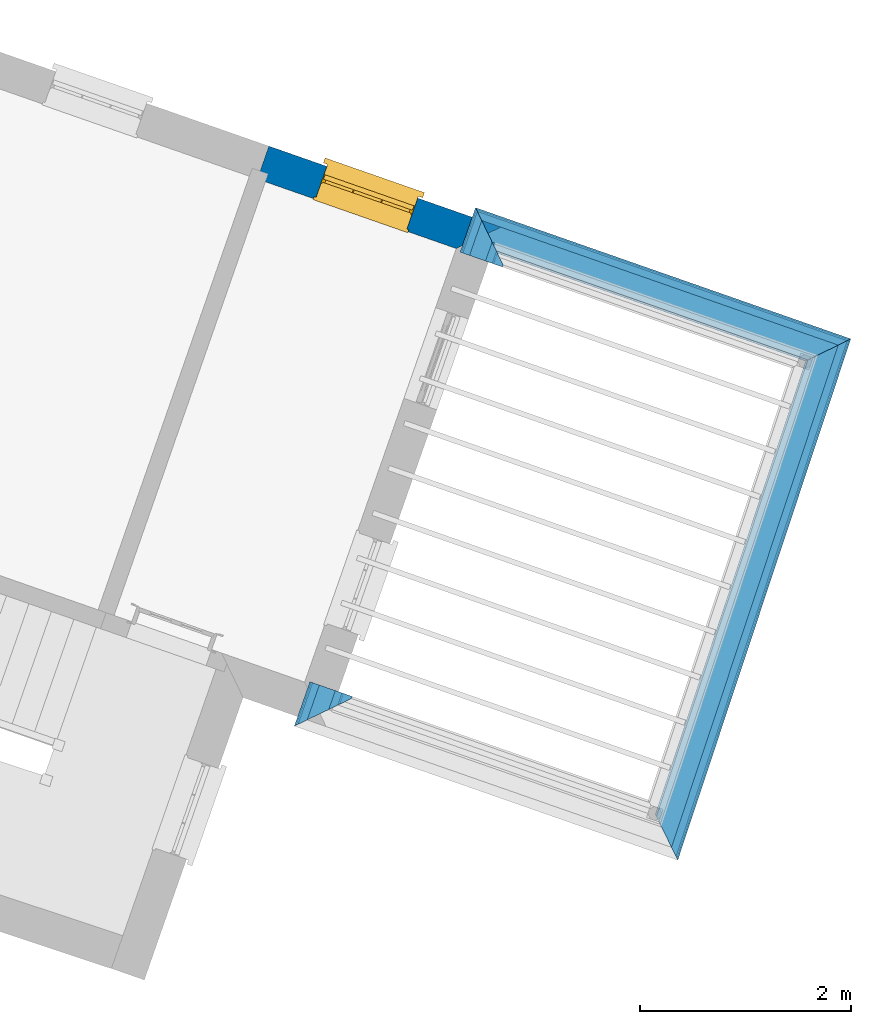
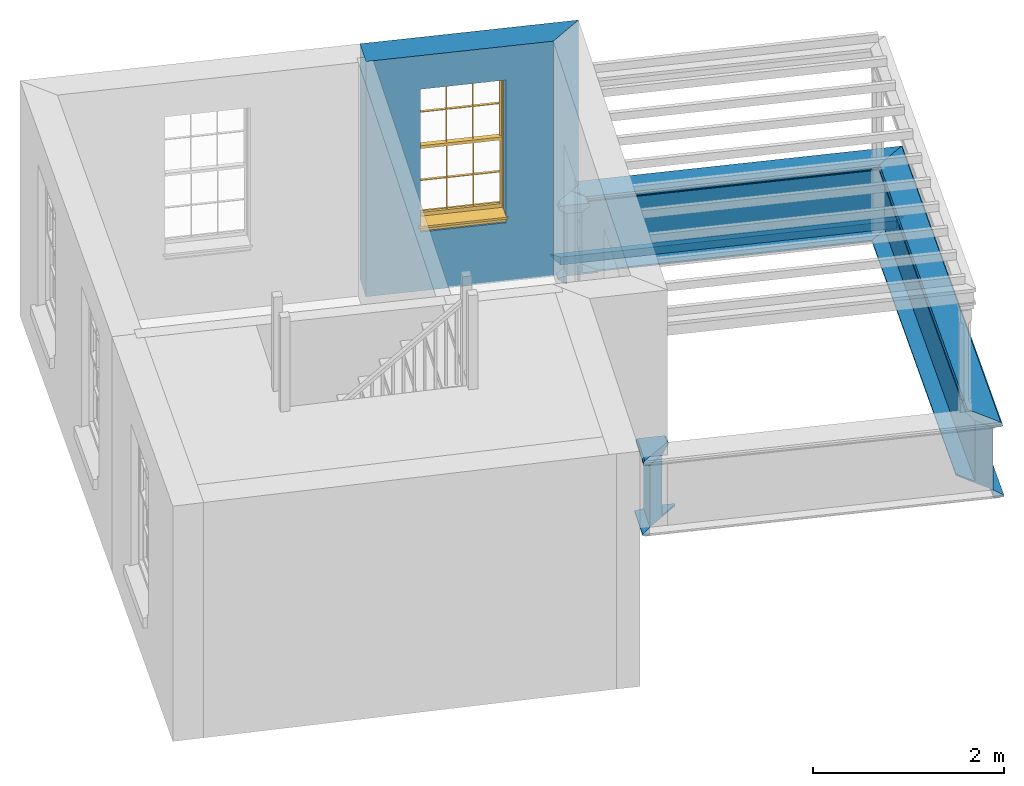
# One storey, part 5 of 6: 13 walls, 1 window, 1 opening.
"""IFC4 building model written with IfcOpenShell, lengths in metres."""

from ifc_helpers import new_model, si_unit, frame, origin, origin_with_axes, place, context, subcontext, project, spatial, polyline, outline, extrude, clip, halfspace, faceted_brep, source, transform, mapped, material, layer, layer_set, layer_usage, material_profile, profile_set, profile_usage, type_object, type_shapes, element, fill, save


model = new_model("IFC4")

# Units and contexts
model_context = context("Model", 3, world=origin_with_axes())
body_context = subcontext(model_context, "Body", "Model", "MODEL_VIEW")
ifc_project = project(units=[si_unit("PLANEANGLEUNIT", "RADIAN"), si_unit("MASSUNIT", "GRAM", prefix="KILO"), si_unit("FORCEUNIT", "NEWTON", prefix="KILO"), si_unit("LENGTHUNIT", "METRE"), si_unit("AREAUNIT", "SQUARE_METRE"), si_unit("VOLUMEUNIT", "CUBIC_METRE")], contexts=[model_context, model_context])

# Sites, building, storey
site_1_placement = place(None, origin_with_axes())
site_1 = spatial("IfcSite", under=ifc_project, at=site_1_placement, Name="Tamar")
site_2_placement = place(site_1_placement, origin_with_axes())
site_2 = spatial("IfcSite", under=site_1, at=site_2_placement, Name="Site plot-15", CompositionType="ELEMENT")
building_placement = place(None, origin_with_axes())
building = spatial("IfcBuilding", under=site_2, at=building_placement, Name="Building plot-15", CompositionType="ELEMENT")
storey_placement = place(None, frame((0.0, 0.0, 29.95), z_axis=(0.0, 0.0, 1.0), x_axis=(1.0, 0.0, 0.0)))
storey = spatial("IfcBuildingStorey", under=building, at=storey_placement, Name="plot-15 1", CompositionType="ELEMENT", Elevation=29.95)

# Wall, opening, window
ifc_material = material(Name="Masonry")
ifc_layer = layer(ifc_material, 0.33, ventilated=False)
ifc_layer_set = layer_set([ifc_layer], Name="exterior_0.08_0.25")
ifc_layer_usage = layer_usage(ifc_layer_set, "AXIS2", "POSITIVE", -0.25)
wall_type_1 = type_object("IfcWallType", Name="exterior_0.08_0.25", PredefinedType="SOLIDWALL", material=ifc_layer_set)
wall_1_placement = place(storey_placement, frame((263.78081158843, 309.226685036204, 0.0), z_axis=(0.0, 0.0, 1.0), x_axis=(-0.943980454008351, 0.330001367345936, 0.0)))
wall_1 = element("IfcWall", 1, at=wall_1_placement, inside=storey, type_object=wall_type_1, material=ifc_layer_usage, Name="exterior", context=body_context, shape_type="SweptSolid", body=[
    extrude(outline(polyline([(0.0799999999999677, 0.0800000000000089), (-0.250000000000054, -0.249999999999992), (2.07269521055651, -0.250000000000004), (2.07269521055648, 0.080000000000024), (0.0799999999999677, 0.0800000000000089)])), origin_with_axes(), (0.0, 0.0, 1.0), 3.0),
])
opening_placement = place(wall_1_placement, frame((0.581347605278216, 0.0, 0.75)))
opening = element("IfcOpeningElement", 2, at=opening_placement, cuts=wall_1, Name="My Opening", ObjectType="Opening", context=body_context, shape_type="SweptSolid", body=[
    extrude(outline(polyline([(0.0, -0.270000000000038), (0.910000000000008, -0.269999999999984), (0.910000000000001, 1.10000000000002), (-7.66053886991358e-15, 1.09999999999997), (0.0, -0.270000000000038)])), origin_with_axes(), (0.0, 0.0, 1.0), 1.82),
])
window_type = type_object("IfcWindowType", Name="sash_big", PartitioningType="DOUBLE_PANEL_HORIZONTAL", PredefinedType="NOTDEFINED")
shared_shape = source(origin(), body_context, "Body", "Brep", [
    faceted_brep([(0.033125, 0.145, 0.975209), (0.01, 0.145, 0.975209), (0.033125, 0.145, 1.376042), (0.876875, 0.145, 0.975209), (0.876875, 0.145, 1.376042), (0.9, 0.145, 0.975209), (0.876875, 0.145, 1.386042), (0.876875, 0.145, 1.786875), (0.9, 0.145, 1.81), (0.033125, 0.145, 1.786875), (0.033125, 0.145, 1.386042), (0.01, 0.145, 1.81), (0.876875, 0.115, 1.376042), (0.876875, 0.115, 0.975209), (0.9, 0.115, 0.937083), (0.033125, 0.115, 1.786875), (0.01, 0.115, 1.81), (0.033125, 0.115, 1.386042), (0.01, 0.115, 0.937083), (0.033125, 0.115, 0.975209), (0.033125, 0.115, 1.376042), (0.876875, 0.115, 1.786875), (0.876875, 0.115, 1.386042), (0.9, 0.115, 1.81), (0.033125, 0.145, 0.937083), (0.01, 0.145, 0.937083), (0.033125, 0.145, 0.53625), (0.876875, 0.145, 0.937083), (0.876875, 0.145, 0.53625), (0.9, 0.145, 0.937083), (0.876875, 0.145, 0.52625), (0.876875, 0.145, 0.125417), (0.9, 0.145, 0.077167), (0.033125, 0.145, 0.125417), (0.033125, 0.145, 0.52625), (0.01, 0.145, 0.077167), (-0.0425, 0.0, 0.01), (-0.0425, -0.05, 0.001667), (0.0, 0.0, 0.01), (0.9525, 0.0, 0.01), (0.91, 0.0, 0.01), (0.9525, -0.05, 0.001667), (-0.02, 0.33, 0.077167), (0.0, 0.33, 0.077167), (-0.02, 0.36, 0.077167), (0.0, 0.19, 0.077167), (0.01, 0.19, 0.077167), (0.91, 0.19, 0.077167), (0.91, 0.33, 0.077167), (0.9, 0.19, 0.077167), (0.93, 0.33, 0.077167), (0.93, 0.36, 0.077167), (0.01, 0.175, 0.975209), (0.9, 0.175, 0.975209), (0.876875, 0.175, 0.125417), (0.876875, 0.175, 0.52625), (0.9, 0.175, 0.077167), (0.876875, 0.175, 0.53625), (0.876875, 0.175, 0.937083), (0.033125, 0.175, 0.125417), (0.01, 0.175, 0.077167), (0.033125, 0.175, 0.52625), (0.033125, 0.175, 0.937083), (0.033125, 0.175, 0.53625), (-0.02, 0.33, 0.052167), (-0.02, 0.36, 0.052167), (0.93, 0.36, 0.052167), (0.93, 0.33, 0.052167), (0.91, 0.33, 0.052167), (0.0, 0.33, 0.052167), (0.91, 0.1, 0.026667), (0.0, 0.1, 0.026667), (-0.0425, -0.05, -0.123333), (0.9525, -0.05, -0.123333), (-0.0425, 0.0, -0.123333), (0.9525, 0.0, -0.123333), (0.01, 0.19, 1.81), (0.9, 0.19, 1.81), (0.0, 0.19, 1.82), (0.91, 0.19, 1.82), (0.01, 0.1, 0.077167), (0.9, 0.1, 0.077167), (0.592292, 0.145, 0.125417), (0.592292, 0.175, 0.125417), (0.317708, 0.175, 0.125417), (0.317708, 0.145, 0.125417), (0.592292, 0.145, 0.53625), (0.317708, 0.145, 0.53625), (0.317708, 0.145, 0.52625), (0.592292, 0.145, 0.52625), (0.592292, 0.175, 0.53625), (0.317708, 0.175, 0.53625), (0.592292, 0.115, 1.386042), (0.592292, 0.145, 1.386042), (0.317708, 0.145, 1.386042), (0.317708, 0.115, 1.386042), (0.317708, 0.115, 1.376042), (0.592292, 0.115, 1.376042), (0.317708, 0.145, 1.376042), (0.592292, 0.145, 1.376042), (0.602292, 0.115, 1.376042), (0.592292, 0.115, 0.975209), (0.602292, 0.115, 0.975209), (0.602292, 0.145, 0.975209), (0.592292, 0.145, 0.975209), (0.602292, 0.145, 1.376042), (0.602292, 0.175, 0.53625), (0.602292, 0.145, 0.53625), (0.317708, 0.175, 0.52625), (0.307708, 0.175, 0.125417), (0.307708, 0.175, 0.52625), (0.602292, 0.175, 0.52625), (0.602292, 0.175, 0.125417), (0.592292, 0.175, 0.52625), (0.307708, 0.175, 0.53625), (0.317708, 0.175, 0.937083), (0.307708, 0.175, 0.937083), (0.602292, 0.175, 0.937083), (0.592292, 0.175, 0.937083), (0.307708, 0.145, 0.52625), (0.307708, 0.145, 0.125417), (0.307708, 0.145, 0.53625), (0.307708, 0.145, 0.937083), (0.592292, 0.145, 0.937083), (0.317708, 0.145, 0.937083), (0.602292, 0.145, 0.937083), (0.602292, 0.145, 0.52625), (0.602292, 0.145, 0.125417), (0.307708, 0.115, 1.386042), (0.307708, 0.115, 1.376042), (0.307708, 0.115, 0.975209), (0.317708, 0.115, 0.975209), (0.317708, 0.115, 1.786875), (0.307708, 0.115, 1.786875), (0.602292, 0.115, 1.786875), (0.592292, 0.115, 1.786875), (0.602292, 0.115, 1.386042), (0.602292, 0.145, 1.386042), (0.307708, 0.145, 1.386042), (0.307708, 0.145, 1.786875), (0.317708, 0.145, 1.786875), (0.592292, 0.145, 1.786875), (0.602292, 0.145, 1.786875), (0.307708, 0.145, 1.376042), (0.317708, 0.145, 0.975209), (0.307708, 0.145, 0.975209), (0.91, 0.1, 1.82), (0.9, 0.1, 1.81), (0.01, 0.1, 1.81), (0.0, 0.1, 1.82), (0.91, 0.0, 0.0), (0.0, 0.0, 0.0), (0.91, 0.33, 0.0), (0.0, 0.33, 0.0)], [[[0, 1, 2]], [[3, 4, 5]], [[6, 7, 8]], [[9, 10, 11]], [[12, 13, 14]], [[15, 16, 17]], [[18, 19, 20]], [[21, 22, 23]], [[24, 25, 26]], [[27, 28, 29]], [[30, 31, 32]], [[33, 34, 35]], [[14, 27, 29]], [[25, 24, 18]], [[36, 37, 38]], [[39, 40, 41]], [[42, 43, 44]], [[45, 46, 43]], [[47, 48, 49]], [[50, 51, 48]], [[1, 0, 52]], [[5, 53, 3]], [[54, 55, 56]], [[57, 58, 53]], [[59, 60, 61]], [[62, 63, 52]], [[48, 43, 46, 49]], [[51, 44, 43, 48]], [[64, 42, 44, 65]], [[65, 44, 51, 66]], [[66, 51, 50, 67]], [[65, 66, 68, 69]], [[60, 56, 49, 46]], [[70, 71, 38, 40]], [[37, 41, 40, 38]], [[37, 72, 73, 41]], [[74, 75, 73, 72]], [[8, 11, 76, 77]], [[76, 78, 79, 77]], [[32, 35, 80, 81]], [[81, 80, 71, 70]], [[82, 83, 84, 85]], [[86, 87, 88, 89]], [[86, 90, 91, 87]], [[92, 93, 94, 95]], [[92, 95, 96, 97]], [[96, 98, 99, 97]], [[100, 97, 101, 102]], [[103, 104, 99, 105]], [[97, 99, 104, 101]], [[102, 103, 105, 100]], [[28, 57, 106, 107]], [[108, 84, 109, 110]], [[111, 112, 83, 113]], [[114, 110, 61, 63]], [[90, 113, 108, 91]], [[115, 91, 114, 116]], [[117, 106, 90, 118]], [[111, 106, 57, 55]], [[119, 110, 109, 120]], [[34, 61, 110, 119]], [[89, 113, 83, 82]], [[88, 108, 113, 89]], [[85, 84, 108, 88]], [[121, 114, 63, 26]], [[122, 116, 114, 121]], [[123, 118, 90, 86]], [[87, 91, 115, 124]], [[107, 106, 117, 125]], [[126, 111, 55, 30]], [[127, 112, 111, 126]], [[126, 30, 28, 107]], [[88, 119, 120, 85]], [[126, 89, 82, 127]], [[125, 123, 86, 107]], [[121, 26, 34, 119]], [[124, 122, 121, 87]], [[128, 17, 20, 129]], [[96, 129, 130, 131]], [[132, 133, 128, 95]], [[134, 135, 92, 136]], [[100, 12, 22, 136]], [[137, 6, 4, 105]], [[94, 138, 139, 140]], [[137, 93, 141, 142]], [[99, 98, 94, 93]], [[143, 2, 10, 138]], [[144, 145, 143, 98]], [[129, 143, 145, 130]], [[20, 2, 143, 129]], [[131, 144, 98, 96]], [[128, 138, 10, 17]], [[133, 139, 138, 128]], [[135, 141, 93, 92]], [[95, 94, 140, 132]], [[22, 6, 137, 136]], [[136, 137, 142, 134]], [[100, 105, 4, 12]], [[107, 86, 89, 126]], [[106, 111, 113, 90]], [[91, 108, 110, 114]], [[87, 121, 119, 88]], [[97, 100, 136, 92]], [[129, 96, 95, 128]], [[98, 143, 138, 94]], [[105, 99, 93, 137]], [[131, 101, 104, 144]], [[124, 115, 118, 123]], [[132, 140, 141, 135]], [[120, 109, 59, 33]], [[15, 9, 139, 133]], [[134, 142, 7, 21]], [[31, 54, 112, 127]], [[36, 74, 72, 37]], [[39, 41, 73, 75]], [[18, 14, 101, 131]], [[23, 16, 132, 135]], [[83, 56, 60, 84]], [[52, 53, 118, 115]], [[53, 52, 144, 104]], [[11, 8, 141, 140]], [[14, 18, 124, 123]], [[2, 1, 11, 10]], [[8, 5, 4, 6]], [[57, 53, 56, 55]], [[60, 52, 63, 61]], [[26, 25, 35, 34]], [[32, 29, 28, 30]], [[14, 23, 22, 12]], [[18, 20, 17, 16]], [[19, 0, 2, 20]], [[17, 10, 9, 15]], [[12, 4, 3, 13]], [[21, 7, 6, 22]], [[27, 58, 57, 28]], [[30, 55, 54, 31]], [[33, 59, 61, 34]], [[26, 63, 62, 24]], [[5, 8, 77, 53]], [[76, 11, 1, 52]], [[46, 45, 78, 76]], [[49, 77, 79, 47]], [[70, 146, 147, 81]], [[71, 80, 148, 149]], [[19, 130, 145, 0]], [[102, 13, 3, 103]], [[116, 122, 24, 62]], [[29, 32, 81, 14]], [[80, 35, 25, 18]], [[60, 46, 76, 52]], [[77, 49, 56, 53]], [[23, 14, 81, 147]], [[16, 148, 80, 18]], [[35, 85, 120]], [[120, 33, 35]], [[127, 82, 32]], [[32, 31, 127]], [[32, 82, 85, 35]], [[102, 101, 14]], [[14, 13, 102]], [[18, 131, 130]], [[130, 19, 18]], [[134, 21, 23]], [[23, 135, 134]], [[16, 15, 133]], [[133, 132, 16]], [[11, 140, 139]], [[139, 9, 11]], [[142, 141, 8]], [[8, 7, 142]], [[23, 147, 148, 16]], [[146, 149, 148, 147]], [[52, 115, 116]], [[116, 62, 52]], [[118, 53, 117]], [[58, 117, 53]], [[27, 125, 117, 58]], [[56, 83, 112]], [[112, 54, 56]], [[109, 84, 60]], [[60, 59, 109]], [[125, 27, 14]], [[14, 123, 125]], [[122, 124, 18]], [[18, 24, 122]], [[145, 144, 52]], [[52, 0, 145]], [[103, 3, 53]], [[53, 104, 103]], [[79, 78, 149, 146]], [[78, 45, 71, 149]], [[146, 70, 47, 79]], [[150, 75, 74, 151]], [[68, 66, 67]], [[48, 68, 67, 50]], [[69, 64, 65]], [[42, 64, 69, 43]], [[69, 68, 152, 153]], [[70, 68, 48, 47]], [[150, 152, 68, 70]], [[43, 69, 71, 45]], [[69, 153, 151, 71]], [[152, 150, 151, 153]], [[38, 151, 74, 36]], [[71, 151, 38]], [[39, 75, 150, 40]], [[40, 150, 70]]]),
])
type_shapes(window_type, [shared_shape])
window_placement = place(storey_placement, frame((263.321131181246, 309.673405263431, 0.75), z_axis=(0.0, 0.0, 1.0), x_axis=(-0.859022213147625, 0.300301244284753, 0.0)))
window = element("IfcWindow", 3, at=window_placement, inside=storey, type_object=window_type, Name="bedroom sahn window", OverallHeight=1.82, OverallWidth=0.91, context=body_context, shape_type="MappedRepresentation", body=[
    mapped(shared_shape, transform((0.0, 0.0, 0.0), scale=1.0)),
])
fill(opening, window)

# Walls
ifc_material_profile_1 = material_profile(None, outline(polyline([(0.25, 0.0), (0.25, 0.795), (0.09, 0.795), (0.09, 0.02), (-0.08, 0.02), (-0.08, 0.0), (0.25, 0.0)])))
ifc_profile_set_1 = profile_set([ifc_material_profile_1])
ifc_profile_usage_1 = profile_usage(ifc_profile_set_1)
wall_type_2 = type_object("IfcWallType", Name="parapet_0", PredefinedType="PARAPET", material=ifc_profile_set_1)
wall_2_placement = place(storey_placement, frame((262.25707292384, 303.928587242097, 0.0), z_axis=(0.330001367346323, 0.943980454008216, 0.0), x_axis=(-0.943980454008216, 0.330001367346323, 0.0)))
element("IfcWall", 4, at=wall_2_placement, inside=storey, type_object=wall_type_2, material=ifc_profile_usage_1, Name="parapet_0", context=body_context, shape_type="Clipping", body=[
    clip(clip(extrude(outline(polyline([(0.25, 0.0), (0.25, 0.795), (0.09, 0.795), (0.09, 0.02), (-0.08, 0.02), (-0.08, 0.0), (0.25, 0.0)])), origin_with_axes(), (0.0, 0.0, 1.0), 2.10000000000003), halfspace(frame((0.0, 0.0, 1.10000000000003), z_axis=(-1.33839086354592e-14, 0.0, -1.0), x_axis=(0.0, 1.0, 0.0)), True)), halfspace(frame((0.0, 0.0, 1.0), z_axis=(-0.707106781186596, 0.0, -0.707106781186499), x_axis=(0.0, 1.0, 0.0)), False)),
])
ifc_profile_usage_2 = profile_usage(ifc_profile_set_1)
wall_3_placement = place(storey_placement, frame((267.291390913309, 309.058650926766, 0.0), z_axis=(-0.315038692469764, -0.949078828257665, 0.0), x_axis=(0.949078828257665, -0.315038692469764, 0.0)))
element("IfcWall", 5, at=wall_3_placement, inside=storey, type_object=wall_type_2, material=ifc_profile_usage_2, Name="parapet_0", context=body_context, shape_type="Clipping", body=[
    clip(clip(extrude(outline(polyline([(0.25, 0.0), (0.25, 0.795), (0.09, 0.795), (0.09, 0.02), (-0.08, 0.02), (-0.08, 0.0), (0.25, 0.0)])), origin_with_axes(), (0.0, 0.0, 1.0), 6.50469940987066), halfspace(frame((0.0, 0.0, 5.50469940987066), z_axis=(0.712673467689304, 0.0, -0.70149592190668), x_axis=(0.0, 1.0, 0.0)), True)), halfspace(frame((0.0, 0.0, 1.0), z_axis=(-0.701495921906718, 0.0, -0.712673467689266), x_axis=(0.0, 1.0, 0.0)), False)),
])
ifc_profile_usage_3 = profile_usage(ifc_profile_set_1)
wall_4_placement = place(storey_placement, frame((263.129465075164, 309.454385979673, 0.0), z_axis=(0.943980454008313, -0.330001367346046, 0.0), x_axis=(0.330001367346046, 0.943980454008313, 0.0)))
element("IfcWall", 6, at=wall_4_placement, inside=storey, type_object=wall_type_2, material=ifc_profile_usage_3, Name="parapet_0", context=body_context, shape_type="Clipping", body=[
    clip(clip(extrude(outline(polyline([(0.25, 0.0), (0.25, 0.795), (0.09, 0.795), (0.09, 0.02), (-0.08, 0.02), (-0.08, 0.0), (0.25, 0.0)])), origin_with_axes(), (0.0, 0.0, 1.0), 5.07517669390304), halfspace(frame((0.0, 0.0, 4.07517669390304), z_axis=(0.701495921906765, 0.0, -0.71267346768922), x_axis=(0.0, 1.0, 0.0)), True)), halfspace(frame((0.0, 0.0, 1.0), z_axis=(-0.70710678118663, 0.0, -0.707106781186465), x_axis=(0.0, 1.0, 0.0)), False)),
])
ifc_profile_usage_4 = profile_usage(ifc_profile_set_1)
wall_5_placement = place(storey_placement, frame((263.710444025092, 308.086006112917, 0.0), z_axis=(0.330001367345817, 0.943980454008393, 0.0), x_axis=(-0.943980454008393, 0.330001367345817, 0.0)))
element("IfcWall", 7, at=wall_5_placement, inside=storey, type_object=wall_type_2, material=ifc_profile_usage_4, Name="parapet_0", context=body_context, shape_type="Clipping", body=[
    clip(clip(extrude(outline(polyline([(0.25, 0.0), (0.25, 0.795), (0.09, 0.795), (0.09, 0.02), (-0.08, 0.02), (-0.08, 0.0), (0.25, 0.0)])), origin_with_axes(), (0.0, 0.0, 1.0), 2.10000000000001), halfspace(frame((0.0, 0.0, 1.10000000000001), z_axis=(0.707106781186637, 0.0, -0.707106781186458), x_axis=(0.0, 1.0, 0.0)), True)), halfspace(frame((0.0, 0.0, 1.0), z_axis=(-1.60484438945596e-14, 0.0, -1.0), x_axis=(0.0, 1.0, 0.0)), False)),
])
ifc_material_profile_2 = material_profile(None, outline(polyline([(0.265, 0.795), (0.268, 0.807), (0.274, 0.816), (0.283, 0.822), (0.295, 0.825), (0.295, 0.84), (0.305, 0.84), (0.317, 0.842), (0.326, 0.849), (0.333, 0.858), (0.335, 0.87), (0.333, 0.882), (0.326, 0.891), (0.317, 0.898), (0.305, 0.9), (0.035, 0.9), (0.023, 0.898), (0.014, 0.891), (0.007, 0.882), (0.005, 0.87), (0.007, 0.858), (0.014, 0.849), (0.023, 0.842), (0.035, 0.84), (0.045, 0.84), (0.045, 0.825), (0.057, 0.822), (0.066, 0.816), (0.072, 0.807), (0.075, 0.795), (0.265, 0.795)])))
ifc_profile_set_2 = profile_set([ifc_material_profile_2])
ifc_profile_usage_5 = profile_usage(ifc_profile_set_2)
wall_type_3 = type_object("IfcWallType", Name="parapet_1", PredefinedType="PARAPET", material=ifc_profile_set_2)
wall_6_placement = place(storey_placement, frame((262.25707292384, 303.928587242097, 0.0), z_axis=(0.330001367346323, 0.943980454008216, 0.0), x_axis=(-0.943980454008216, 0.330001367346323, 0.0)))
element("IfcWall", 8, at=wall_6_placement, inside=storey, type_object=wall_type_3, material=ifc_profile_usage_5, Name="parapet_1", context=body_context, shape_type="Clipping", body=[
    clip(clip(extrude(outline(polyline([(0.265, 0.795), (0.268, 0.807), (0.274, 0.816), (0.283, 0.822), (0.295, 0.825), (0.295, 0.84), (0.305, 0.84), (0.317, 0.842), (0.326, 0.849), (0.333, 0.858), (0.335, 0.87), (0.333, 0.882), (0.326, 0.891), (0.317, 0.898), (0.305, 0.9), (0.035, 0.9), (0.023, 0.898), (0.014, 0.891), (0.007, 0.882), (0.005, 0.87), (0.007, 0.858), (0.014, 0.849), (0.023, 0.842), (0.035, 0.84), (0.045, 0.84), (0.045, 0.825), (0.057, 0.822), (0.066, 0.816), (0.072, 0.807), (0.075, 0.795), (0.265, 0.795)])), origin_with_axes(), (0.0, 0.0, 1.0), 2.10000000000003), halfspace(frame((0.0, 0.0, 1.10000000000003), z_axis=(-1.33839086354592e-14, 0.0, -1.0), x_axis=(0.0, 1.0, 0.0)), True)), halfspace(frame((0.0, 0.0, 1.0), z_axis=(-0.707106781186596, 0.0, -0.707106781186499), x_axis=(0.0, 1.0, 0.0)), False)),
])
ifc_profile_usage_6 = profile_usage(ifc_profile_set_2)
wall_7_placement = place(storey_placement, frame((267.291390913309, 309.058650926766, 0.0), z_axis=(-0.315038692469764, -0.949078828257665, 0.0), x_axis=(0.949078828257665, -0.315038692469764, 0.0)))
element("IfcWall", 9, at=wall_7_placement, inside=storey, type_object=wall_type_3, material=ifc_profile_usage_6, Name="parapet_1", context=body_context, shape_type="Clipping", body=[
    clip(clip(extrude(outline(polyline([(0.265, 0.795), (0.268, 0.807), (0.274, 0.816), (0.283, 0.822), (0.295, 0.825), (0.295, 0.84), (0.305, 0.84), (0.317, 0.842), (0.326, 0.849), (0.333, 0.858), (0.335, 0.87), (0.333, 0.882), (0.326, 0.891), (0.317, 0.898), (0.305, 0.9), (0.035, 0.9), (0.023, 0.898), (0.014, 0.891), (0.007, 0.882), (0.005, 0.87), (0.007, 0.858), (0.014, 0.849), (0.023, 0.842), (0.035, 0.84), (0.045, 0.84), (0.045, 0.825), (0.057, 0.822), (0.066, 0.816), (0.072, 0.807), (0.075, 0.795), (0.265, 0.795)])), origin_with_axes(), (0.0, 0.0, 1.0), 6.50469940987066), halfspace(frame((0.0, 0.0, 5.50469940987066), z_axis=(0.712673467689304, 0.0, -0.70149592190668), x_axis=(0.0, 1.0, 0.0)), True)), halfspace(frame((0.0, 0.0, 1.0), z_axis=(-0.701495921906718, 0.0, -0.712673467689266), x_axis=(0.0, 1.0, 0.0)), False)),
])
ifc_profile_usage_7 = profile_usage(ifc_profile_set_2)
wall_8_placement = place(storey_placement, frame((263.129465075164, 309.454385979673, 0.0), z_axis=(0.943980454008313, -0.330001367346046, 0.0), x_axis=(0.330001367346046, 0.943980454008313, 0.0)))
element("IfcWall", 10, at=wall_8_placement, inside=storey, type_object=wall_type_3, material=ifc_profile_usage_7, Name="parapet_1", context=body_context, shape_type="Clipping", body=[
    clip(clip(extrude(outline(polyline([(0.265, 0.795), (0.268, 0.807), (0.274, 0.816), (0.283, 0.822), (0.295, 0.825), (0.295, 0.84), (0.305, 0.84), (0.317, 0.842), (0.326, 0.849), (0.333, 0.858), (0.335, 0.87), (0.333, 0.882), (0.326, 0.891), (0.317, 0.898), (0.305, 0.9), (0.035, 0.9), (0.023, 0.898), (0.014, 0.891), (0.007, 0.882), (0.005, 0.87), (0.007, 0.858), (0.014, 0.849), (0.023, 0.842), (0.035, 0.84), (0.045, 0.84), (0.045, 0.825), (0.057, 0.822), (0.066, 0.816), (0.072, 0.807), (0.075, 0.795), (0.265, 0.795)])), origin_with_axes(), (0.0, 0.0, 1.0), 5.07517669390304), halfspace(frame((0.0, 0.0, 4.07517669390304), z_axis=(0.701495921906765, 0.0, -0.71267346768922), x_axis=(0.0, 1.0, 0.0)), True)), halfspace(frame((0.0, 0.0, 1.0), z_axis=(-0.70710678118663, 0.0, -0.707106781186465), x_axis=(0.0, 1.0, 0.0)), False)),
])
ifc_profile_usage_8 = profile_usage(ifc_profile_set_2)
wall_9_placement = place(storey_placement, frame((263.710444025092, 308.086006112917, 0.0), z_axis=(0.330001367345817, 0.943980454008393, 0.0), x_axis=(-0.943980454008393, 0.330001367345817, 0.0)))
element("IfcWall", 11, at=wall_9_placement, inside=storey, type_object=wall_type_3, material=ifc_profile_usage_8, Name="parapet_1", context=body_context, shape_type="Clipping", body=[
    clip(clip(extrude(outline(polyline([(0.265, 0.795), (0.268, 0.807), (0.274, 0.816), (0.283, 0.822), (0.295, 0.825), (0.295, 0.84), (0.305, 0.84), (0.317, 0.842), (0.326, 0.849), (0.333, 0.858), (0.335, 0.87), (0.333, 0.882), (0.326, 0.891), (0.317, 0.898), (0.305, 0.9), (0.035, 0.9), (0.023, 0.898), (0.014, 0.891), (0.007, 0.882), (0.005, 0.87), (0.007, 0.858), (0.014, 0.849), (0.023, 0.842), (0.035, 0.84), (0.045, 0.84), (0.045, 0.825), (0.057, 0.822), (0.066, 0.816), (0.072, 0.807), (0.075, 0.795), (0.265, 0.795)])), origin_with_axes(), (0.0, 0.0, 1.0), 2.10000000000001), halfspace(frame((0.0, 0.0, 1.10000000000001), z_axis=(0.707106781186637, 0.0, -0.707106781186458), x_axis=(0.0, 1.0, 0.0)), True)), halfspace(frame((0.0, 0.0, 1.0), z_axis=(-1.60484438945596e-14, 0.0, -1.0), x_axis=(0.0, 1.0, 0.0)), False)),
])
ifc_material_profile_3 = material_profile(None, outline(polyline([(0.25, -0.1), (0.265, -0.1), (0.265, -0.085), (0.278, -0.084), (0.289, -0.081), (0.301, -0.074), (0.309, -0.065), (0.315, -0.055), (0.324, -0.044), (0.334, -0.038), (0.345, -0.035), (0.345, -0.015), (0.25, 0.0), (0.25, -0.1)])))
ifc_profile_set_3 = profile_set([ifc_material_profile_3])
ifc_profile_usage_9 = profile_usage(ifc_profile_set_3)
wall_type_4 = type_object("IfcWallType", Name="parapet_2", PredefinedType="PARAPET", material=ifc_profile_set_3)
wall_10_placement = place(storey_placement, frame((262.25707292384, 303.928587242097, 0.0), z_axis=(0.330001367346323, 0.943980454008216, 0.0), x_axis=(-0.943980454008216, 0.330001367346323, 0.0)))
element("IfcWall", 12, at=wall_10_placement, inside=storey, type_object=wall_type_4, material=ifc_profile_usage_9, Name="parapet_2", context=body_context, shape_type="Clipping", body=[
    clip(clip(extrude(outline(polyline([(0.25, -0.1), (0.265, -0.1), (0.265, -0.085), (0.278, -0.084), (0.289, -0.081), (0.301, -0.074), (0.309, -0.065), (0.315, -0.055), (0.324, -0.044), (0.334, -0.038), (0.345, -0.035), (0.345, -0.015), (0.25, 0.0), (0.25, -0.1)])), origin_with_axes(), (0.0, 0.0, 1.0), 2.10000000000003), halfspace(frame((0.0, 0.0, 1.10000000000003), z_axis=(-1.33839086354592e-14, 0.0, -1.0), x_axis=(0.0, 1.0, 0.0)), True)), halfspace(frame((0.0, 0.0, 1.0), z_axis=(-0.707106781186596, 0.0, -0.707106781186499), x_axis=(0.0, 1.0, 0.0)), False)),
])
ifc_profile_usage_10 = profile_usage(ifc_profile_set_3)
wall_11_placement = place(storey_placement, frame((267.291390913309, 309.058650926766, 0.0), z_axis=(-0.315038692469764, -0.949078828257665, 0.0), x_axis=(0.949078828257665, -0.315038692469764, 0.0)))
element("IfcWall", 13, at=wall_11_placement, inside=storey, type_object=wall_type_4, material=ifc_profile_usage_10, Name="parapet_2", context=body_context, shape_type="Clipping", body=[
    clip(clip(extrude(outline(polyline([(0.25, -0.1), (0.265, -0.1), (0.265, -0.085), (0.278, -0.084), (0.289, -0.081), (0.301, -0.074), (0.309, -0.065), (0.315, -0.055), (0.324, -0.044), (0.334, -0.038), (0.345, -0.035), (0.345, -0.015), (0.25, 0.0), (0.25, -0.1)])), origin_with_axes(), (0.0, 0.0, 1.0), 6.50469940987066), halfspace(frame((0.0, 0.0, 5.50469940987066), z_axis=(0.712673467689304, 0.0, -0.70149592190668), x_axis=(0.0, 1.0, 0.0)), True)), halfspace(frame((0.0, 0.0, 1.0), z_axis=(-0.701495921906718, 0.0, -0.712673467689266), x_axis=(0.0, 1.0, 0.0)), False)),
])
ifc_profile_usage_11 = profile_usage(ifc_profile_set_3)
wall_12_placement = place(storey_placement, frame((263.129465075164, 309.454385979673, 0.0), z_axis=(0.943980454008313, -0.330001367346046, 0.0), x_axis=(0.330001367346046, 0.943980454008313, 0.0)))
element("IfcWall", 14, at=wall_12_placement, inside=storey, type_object=wall_type_4, material=ifc_profile_usage_11, Name="parapet_2", context=body_context, shape_type="Clipping", body=[
    clip(clip(extrude(outline(polyline([(0.25, -0.1), (0.265, -0.1), (0.265, -0.085), (0.278, -0.084), (0.289, -0.081), (0.301, -0.074), (0.309, -0.065), (0.315, -0.055), (0.324, -0.044), (0.334, -0.038), (0.345, -0.035), (0.345, -0.015), (0.25, 0.0), (0.25, -0.1)])), origin_with_axes(), (0.0, 0.0, 1.0), 5.07517669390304), halfspace(frame((0.0, 0.0, 4.07517669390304), z_axis=(0.701495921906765, 0.0, -0.71267346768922), x_axis=(0.0, 1.0, 0.0)), True)), halfspace(frame((0.0, 0.0, 1.0), z_axis=(-0.70710678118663, 0.0, -0.707106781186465), x_axis=(0.0, 1.0, 0.0)), False)),
])
ifc_profile_usage_12 = profile_usage(ifc_profile_set_3)
wall_13_placement = place(storey_placement, frame((263.710444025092, 308.086006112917, 0.0), z_axis=(0.330001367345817, 0.943980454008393, 0.0), x_axis=(-0.943980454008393, 0.330001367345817, 0.0)))
element("IfcWall", 15, at=wall_13_placement, inside=storey, type_object=wall_type_4, material=ifc_profile_usage_12, Name="parapet_2", context=body_context, shape_type="Clipping", body=[
    clip(clip(extrude(outline(polyline([(0.25, -0.1), (0.265, -0.1), (0.265, -0.085), (0.278, -0.084), (0.289, -0.081), (0.301, -0.074), (0.309, -0.065), (0.315, -0.055), (0.324, -0.044), (0.334, -0.038), (0.345, -0.035), (0.345, -0.015), (0.25, 0.0), (0.25, -0.1)])), origin_with_axes(), (0.0, 0.0, 1.0), 2.10000000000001), halfspace(frame((0.0, 0.0, 1.10000000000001), z_axis=(0.707106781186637, 0.0, -0.707106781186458), x_axis=(0.0, 1.0, 0.0)), True)), halfspace(frame((0.0, 0.0, 1.0), z_axis=(-1.60484438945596e-14, 0.0, -1.0), x_axis=(0.0, 1.0, 0.0)), False)),
])

save(model, "model.ifc")
